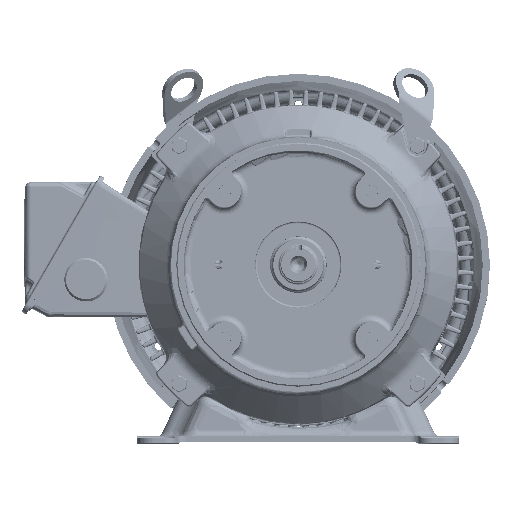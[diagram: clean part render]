
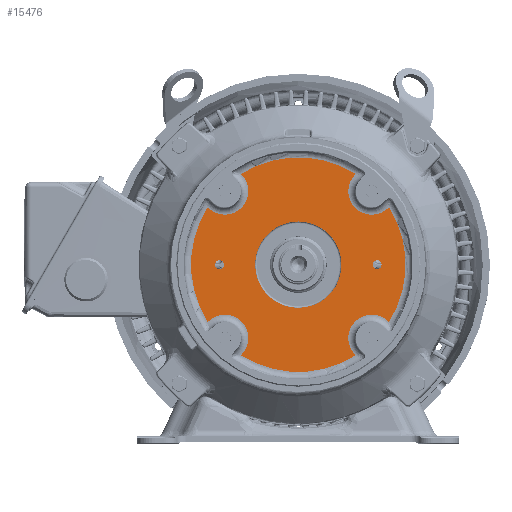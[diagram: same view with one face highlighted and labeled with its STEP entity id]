
A CAD part, top view. The second image highlights one B-rep face of the part: STEP entity #15476.
In plain terms, the highlighted planar face has unit normal (0, 0, 1) as drawn and (0, 0, -1) by its records, which use the part's own axes.
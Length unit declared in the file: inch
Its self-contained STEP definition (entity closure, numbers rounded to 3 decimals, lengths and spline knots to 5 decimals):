
#2457=CARTESIAN_POINT('',(0.,0.,-2.187));
#2458=DIRECTION('',(0.,0.,-1.));
#2459=DIRECTION('',(-0.535,0.845,0.));
#2460=AXIS2_PLACEMENT_3D('',#2457,#2458,#2459);
#2462=DIRECTION('',(0.688,-0.725,0.));
#2463=VECTOR('',#2462,0.05073);
#2464=CARTESIAN_POINT('',(-2.00482,3.16314,-2.187));
#2465=LINE('',#2464,#2463);
#2466=CARTESIAN_POINT('',(-2.56326,2.56326,-2.187));
#2467=DIRECTION('',(0.,0.,-1.));
#2468=DIRECTION('',(0.725,0.688,0.));
#2469=AXIS2_PLACEMENT_3D('',#2466,#2467,#2468);
#2471=DIRECTION('',(-0.725,0.688,0.));
#2472=VECTOR('',#2471,0.05077);
#2473=CARTESIAN_POINT('',(-3.12634,1.9699,-2.187));
#2474=LINE('',#2473,#2472);
#2475=CARTESIAN_POINT('',(0.,0.,-2.187));
#2476=DIRECTION('',(0.,0.,-1.));
#2477=DIRECTION('',(-0.845,-0.535,0.));
#2478=AXIS2_PLACEMENT_3D('',#2475,#2476,#2477);
#2480=DIRECTION('',(0.725,0.688,0.));
#2481=VECTOR('',#2480,0.05076);
#2482=CARTESIAN_POINT('',(-3.16316,-2.00484,-2.187));
#2483=LINE('',#2482,#2481);
#2484=CARTESIAN_POINT('',(-2.56326,-2.56326,-2.187));
#2485=DIRECTION('',(0.,0.,-1.));
#2486=DIRECTION('',(-0.688,0.725,0.));
#2487=AXIS2_PLACEMENT_3D('',#2484,#2485,#2486);
#2489=DIRECTION('',(-0.688,-0.725,0.));
#2490=VECTOR('',#2489,0.05076);
#2491=CARTESIAN_POINT('',(-1.9699,-3.12634,-2.187));
#2492=LINE('',#2491,#2490);
#2493=CARTESIAN_POINT('',(0.,0.,-2.187));
#2494=DIRECTION('',(0.,0.,-1.));
#2495=DIRECTION('',(0.535,-0.845,0.));
#2496=AXIS2_PLACEMENT_3D('',#2493,#2494,#2495);
#2498=DIRECTION('',(-0.688,0.725,0.));
#2499=VECTOR('',#2498,0.05076);
#2500=CARTESIAN_POINT('',(2.00484,-3.16316,-2.187));
#2501=LINE('',#2500,#2499);
#2502=CARTESIAN_POINT('',(2.56326,-2.56326,-2.187));
#2503=DIRECTION('',(0.,0.,-1.));
#2504=DIRECTION('',(-0.725,-0.688,0.));
#2505=AXIS2_PLACEMENT_3D('',#2502,#2503,#2504);
#2507=DIRECTION('',(0.725,-0.688,0.));
#2508=VECTOR('',#2507,0.05075);
#2509=CARTESIAN_POINT('',(3.12634,-1.9699,-2.187));
#2510=LINE('',#2509,#2508);
#2511=CARTESIAN_POINT('',(0.,0.,-2.187));
#2512=DIRECTION('',(0.,0.,-1.));
#2513=DIRECTION('',(0.845,0.535,0.));
#2514=AXIS2_PLACEMENT_3D('',#2511,#2512,#2513);
#2516=DIRECTION('',(-0.725,-0.688,0.));
#2517=VECTOR('',#2516,0.05076);
#2518=CARTESIAN_POINT('',(3.16316,2.00484,-2.187));
#2519=LINE('',#2518,#2517);
#2520=CARTESIAN_POINT('',(2.56326,2.56326,-2.187));
#2521=DIRECTION('',(0.,0.,-1.));
#2522=DIRECTION('',(0.688,-0.725,0.));
#2523=AXIS2_PLACEMENT_3D('',#2520,#2521,#2522);
#2525=DIRECTION('',(0.688,0.725,0.));
#2526=VECTOR('',#2525,0.05076);
#2527=CARTESIAN_POINT('',(1.9699,3.12634,-2.187));
#2528=LINE('',#2527,#2526);
#2529=CARTESIAN_POINT('',(2.75,0.,-2.187));
#2530=DIRECTION('',(0.,0.,1.));
#2531=DIRECTION('',(1.,0.,0.));
#2532=AXIS2_PLACEMENT_3D('',#2529,#2530,#2531);
#2534=CARTESIAN_POINT('',(2.75,0.,-2.187));
#2535=DIRECTION('',(0.,0.,1.));
#2536=DIRECTION('',(-1.,0.,0.));
#2537=AXIS2_PLACEMENT_3D('',#2534,#2535,#2536);
#2539=CARTESIAN_POINT('',(-2.75,0.,-2.187));
#2540=DIRECTION('',(0.,0.,1.));
#2541=DIRECTION('',(-1.,0.,0.));
#2542=AXIS2_PLACEMENT_3D('',#2539,#2540,#2541);
#2544=CARTESIAN_POINT('',(-2.75,0.,-2.187));
#2545=DIRECTION('',(0.,0.,1.));
#2546=DIRECTION('',(1.,0.,0.));
#2547=AXIS2_PLACEMENT_3D('',#2544,#2545,#2546);
#2558=CARTESIAN_POINT('',(0.,0.,-2.187));
#2559=DIRECTION('',(0.,0.,-1.));
#2560=DIRECTION('',(0.,1.,0.));
#2561=AXIS2_PLACEMENT_3D('',#2558,#2559,#2560);
#2602=CARTESIAN_POINT('',(0.,0.,-2.187));
#2603=DIRECTION('',(0.,0.,1.));
#2604=DIRECTION('',(0.,1.,0.));
#2605=AXIS2_PLACEMENT_3D('',#2602,#2603,#2604);
#12891=CARTESIAN_POINT('',(2.9055,0.,-2.187));
#12892=CARTESIAN_POINT('',(2.5945,0.,-2.187));
#12893=VERTEX_POINT('',#12891);
#12894=VERTEX_POINT('',#12892);
#12899=CARTESIAN_POINT('',(-2.9055,0.,-2.187));
#12900=CARTESIAN_POINT('',(-2.5945,0.,-2.187));
#12901=VERTEX_POINT('',#12899);
#12902=VERTEX_POINT('',#12900);
#12925=CARTESIAN_POINT('',(0.,1.5075,-2.187));
#12926=CARTESIAN_POINT('',(0.,-1.5075,-2.187));
#12927=VERTEX_POINT('',#12925);
#12928=VERTEX_POINT('',#12926);
#13284=CARTESIAN_POINT('',(-2.00482,3.16317,-2.187));
#13285=CARTESIAN_POINT('',(2.00484,3.16316,-2.187));
#13286=VERTEX_POINT('',#13284);
#13287=VERTEX_POINT('',#13285);
#13288=CARTESIAN_POINT('',(-3.12634,1.9699,-2.187));
#13289=CARTESIAN_POINT('',(-3.16317,2.00485,-2.187));
#13290=VERTEX_POINT('',#13288);
#13291=VERTEX_POINT('',#13289);
#13296=CARTESIAN_POINT('',(-1.9699,3.12634,-2.187));
#13297=VERTEX_POINT('',#13296);
#13306=CARTESIAN_POINT('',(-3.16316,-2.00484,-2.187));
#13307=VERTEX_POINT('',#13306);
#13308=CARTESIAN_POINT('',(-1.9699,-3.12634,-2.187));
#13309=CARTESIAN_POINT('',(-2.00484,-3.16316,-2.187));
#13310=VERTEX_POINT('',#13308);
#13311=VERTEX_POINT('',#13309);
#13316=CARTESIAN_POINT('',(-3.12634,-1.9699,-2.187));
#13317=VERTEX_POINT('',#13316);
#13326=CARTESIAN_POINT('',(2.00484,-3.16316,-2.187));
#13327=VERTEX_POINT('',#13326);
#13332=CARTESIAN_POINT('',(1.9699,-3.12634,-2.187));
#13333=VERTEX_POINT('',#13332);
#13334=CARTESIAN_POINT('',(3.12634,-1.9699,-2.187));
#13335=VERTEX_POINT('',#13334);
#13338=CARTESIAN_POINT('',(3.16315,-2.00483,-2.187));
#13339=VERTEX_POINT('',#13338);
#13346=CARTESIAN_POINT('',(3.16316,2.00484,-2.187));
#13347=VERTEX_POINT('',#13346);
#13352=CARTESIAN_POINT('',(3.12634,1.9699,-2.187));
#13353=VERTEX_POINT('',#13352);
#13354=CARTESIAN_POINT('',(1.9699,3.12634,-2.187));
#13355=VERTEX_POINT('',#13354);
#15426=CARTESIAN_POINT('',(0.,0.,-2.187));
#15427=DIRECTION('',(0.,0.,1.));
#15428=DIRECTION('',(0.,1.,0.));
#15429=AXIS2_PLACEMENT_3D('',#15426,#15427,#15428);
#15430=PLANE('',#15429);
#15431=ORIENTED_EDGE('',*,*,#15297,.F.);
#15432=ORIENTED_EDGE('',*,*,#15365,.T.);
#15433=ORIENTED_EDGE('',*,*,#15417,.T.);
#15435=ORIENTED_EDGE('',*,*,#15434,.T.);
#15437=ORIENTED_EDGE('',*,*,#15436,.F.);
#15439=ORIENTED_EDGE('',*,*,#15438,.T.);
#15441=ORIENTED_EDGE('',*,*,#15440,.T.);
#15443=ORIENTED_EDGE('',*,*,#15442,.T.);
#15444=ORIENTED_EDGE('',*,*,#14885,.F.);
#15445=ORIENTED_EDGE('',*,*,#14953,.T.);
#15447=ORIENTED_EDGE('',*,*,#15446,.T.);
#15449=ORIENTED_EDGE('',*,*,#15448,.T.);
#15450=ORIENTED_EDGE('',*,*,#15091,.F.);
#15451=ORIENTED_EDGE('',*,*,#15159,.T.);
#15453=ORIENTED_EDGE('',*,*,#15452,.T.);
#15455=ORIENTED_EDGE('',*,*,#15454,.T.);
#15456=EDGE_LOOP('',(#15431,#15432,#15433,#15435,#15437,#15439,#15441,#15443,
#15444,#15445,#15447,#15449,#15450,#15451,#15453,#15455));
#15457=FACE_OUTER_BOUND('',#15456,.F.);
#15459=ORIENTED_EDGE('',*,*,#15458,.T.);
#15461=ORIENTED_EDGE('',*,*,#15460,.F.);
#15462=EDGE_LOOP('',(#15459,#15461));
#15463=FACE_BOUND('',#15462,.F.);
#15465=ORIENTED_EDGE('',*,*,#15464,.F.);
#15467=ORIENTED_EDGE('',*,*,#15466,.F.);
#15468=EDGE_LOOP('',(#15465,#15467));
#15469=FACE_BOUND('',#15468,.F.);
#15471=ORIENTED_EDGE('',*,*,#15470,.F.);
#15473=ORIENTED_EDGE('',*,*,#15472,.F.);
#15474=EDGE_LOOP('',(#15471,#15473));
#15475=FACE_BOUND('',#15474,.F.);
#15476=ADVANCED_FACE('',(#15457,#15463,#15469,#15475),#15430,.F.);
#2461=CIRCLE('',#2460,3.74499);
#2470=CIRCLE('',#2469,0.81801);
#2479=CIRCLE('',#2478,3.74499);
#2488=CIRCLE('',#2487,0.81801);
#2497=CIRCLE('',#2496,3.74499);
#2506=CIRCLE('',#2505,0.81801);
#2515=CIRCLE('',#2514,3.74499);
#2524=CIRCLE('',#2523,0.81801);
#2533=CIRCLE('',#2532,0.1555);
#2538=CIRCLE('',#2537,0.1555);
#2543=CIRCLE('',#2542,0.1555);
#2548=CIRCLE('',#2547,0.1555);
#2562=CIRCLE('',#2561,1.5075);
#2606=CIRCLE('',#2605,1.5075);
#14885=EDGE_CURVE('',#13327,#13311,#2497,.T.);
#14953=EDGE_CURVE('',#13327,#13333,#2501,.T.);
#15091=EDGE_CURVE('',#13347,#13339,#2515,.T.);
#15159=EDGE_CURVE('',#13347,#13353,#2519,.T.);
#15297=EDGE_CURVE('',#13286,#13287,#2461,.T.);
#15365=EDGE_CURVE('',#13286,#13297,#2465,.T.);
#15417=EDGE_CURVE('',#13297,#13290,#2470,.T.);
#15434=EDGE_CURVE('',#13290,#13291,#2474,.T.);
#15436=EDGE_CURVE('',#13307,#13291,#2479,.T.);
#15438=EDGE_CURVE('',#13307,#13317,#2483,.T.);
#15440=EDGE_CURVE('',#13317,#13310,#2488,.T.);
#15442=EDGE_CURVE('',#13310,#13311,#2492,.T.);
#15446=EDGE_CURVE('',#13333,#13335,#2506,.T.);
#15448=EDGE_CURVE('',#13335,#13339,#2510,.T.);
#15452=EDGE_CURVE('',#13353,#13355,#2524,.T.);
#15454=EDGE_CURVE('',#13355,#13287,#2528,.T.);
#15458=EDGE_CURVE('',#12927,#12928,#2562,.T.);
#15460=EDGE_CURVE('',#12927,#12928,#2606,.T.);
#15464=EDGE_CURVE('',#12893,#12894,#2533,.T.);
#15466=EDGE_CURVE('',#12894,#12893,#2538,.T.);
#15470=EDGE_CURVE('',#12901,#12902,#2543,.T.);
#15472=EDGE_CURVE('',#12902,#12901,#2548,.T.);
